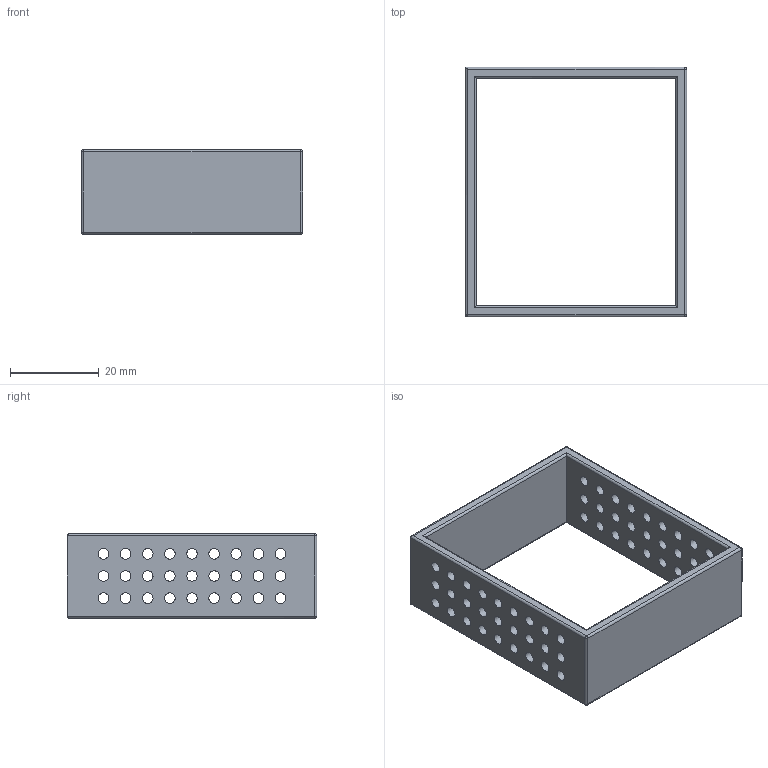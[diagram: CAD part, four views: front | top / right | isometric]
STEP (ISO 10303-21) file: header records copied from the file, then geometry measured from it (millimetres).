
FILE_DESCRIPTION(/* description */ (''),/* implementation_level */ '2;1');
FILE_NAME(/* name */ 'C:/Users/priba/Downloads/arm-link-mid50.step',/* time_stamp */ '2022-04-03T23:57:01+02:00',/* author */ (''),/* organization */ (''),/* preprocessor_version */ 'ST-DEVELOPER v18.1',/* originating_system */ 'Autodesk Translation Framework v10.13.0.1454',/* authorisation */ '');
FILE_SCHEMA (('AUTOMOTIVE_DESIGN { 1 0 10303 214 3 1 1 }'));
Length unit declared in the file: millimetre
Products named in the file (1): arm-link-mid50
Bounding box: 50 x 56.35 x 19.09 mm (x, y, z)
Volume: 9018.6 mm3; surface area: 9097.2 mm2
Topology: 1 solids, 1 shells, 89 faces, 233 edges, 146 vertices
Faces by surface type: cylinder 73, plane 10, sphere 6
Full cylindrical faces by diameter (mm): 2.4 x54
Entity records: 3032 total; most frequent: DIRECTION 549, CARTESIAN_POINT 469, ORIENTED_EDGE 466, EDGE_CURVE 233, AXIS2_PLACEMENT_3D 226, EDGE_LOOP 199, VERTEX_POINT 146, CIRCLE 126
